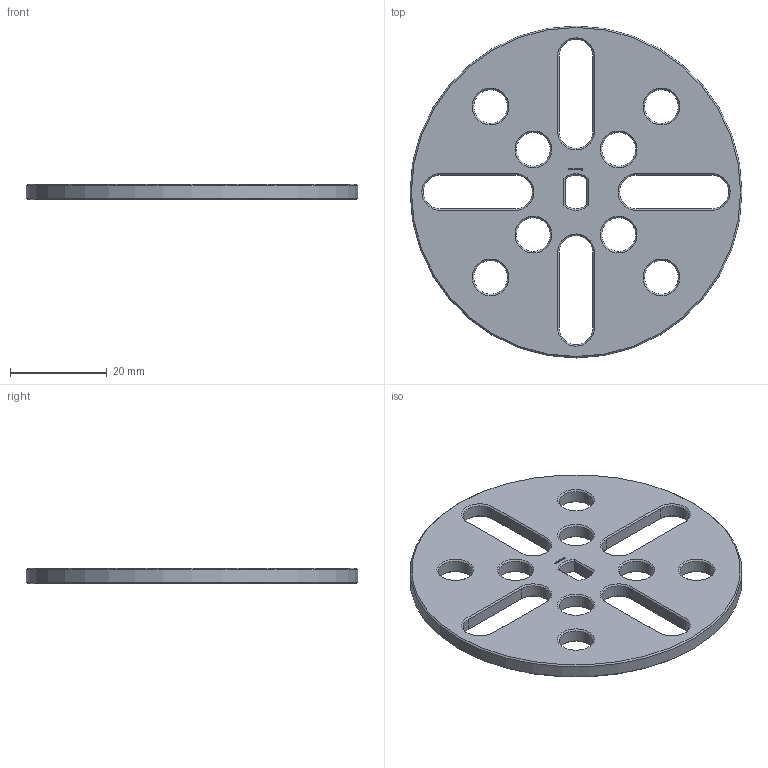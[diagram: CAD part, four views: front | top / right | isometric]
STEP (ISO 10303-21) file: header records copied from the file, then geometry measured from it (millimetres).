
FILE_DESCRIPTION(/* description */ (''),/* implementation_level */ '2;1');
FILE_NAME(/* name */ '/Users/paulokiefe/Desktop/STEMFIE/Fasteners/Washers/Fixed/Washer WSR FXD BU0.25x5.50 - SPN-WSR-0019 v1.step',/* time_stamp */ '2020-09-27T23:18:36+02:00',/* author */ (''),/* organization */ (''),/* preprocessor_version */ 'ST-DEVELOPER v18.1',/* originating_system */ 'Autodesk Translation Framework v9.3.0.1241',/* authorisation */ '');
FILE_SCHEMA (('AUTOMOTIVE_DESIGN { 1 0 10303 214 3 1 1 }'));
Length unit declared in the file: millimetre
Products named in the file (1): Washer WSR FXD BU0.25x5.50 - SPN-WSR-0019
Bounding box: 68.75 x 68.75 x 3.12 mm (x, y, z)
Volume: 8643.9 mm3; surface area: 7306.3 mm2
Topology: 1 solids, 1 shells, 333 faces, 899 edges, 580 vertices
Faces by surface type: plane 276, cone 38, cylinder 19
Full cylindrical faces by diameter (mm): 7 x8, 68.75 x1
Entity records: 10318 total; most frequent: CARTESIAN_POINT 1837, ORIENTED_EDGE 1798, DIRECTION 1635, EDGE_CURVE 899, LINE 815, VECTOR 815, VERTEX_POINT 580, AXIS2_PLACEMENT_3D 410
